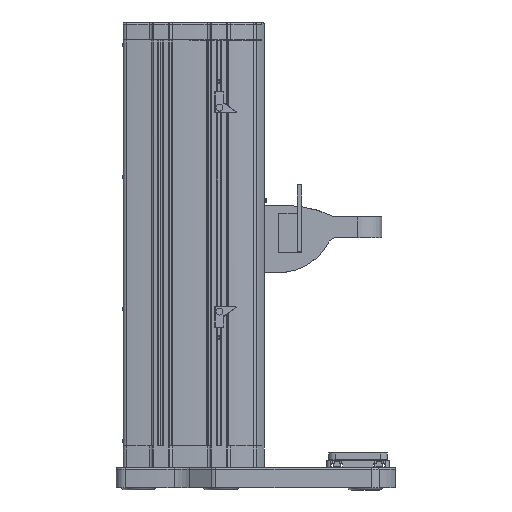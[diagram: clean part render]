
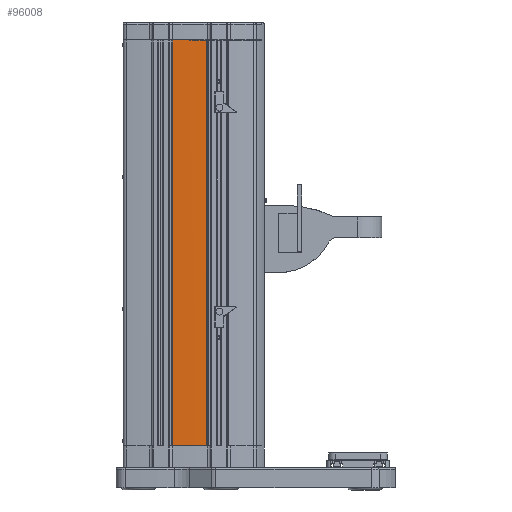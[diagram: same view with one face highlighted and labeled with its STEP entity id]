
A CAD part, left-side view. The second image highlights one B-rep face of the part: STEP entity #96008.
In plain terms, the highlighted cylindrical face has radius 887.984 mm (diameter 1775.97 mm), a partial arc.
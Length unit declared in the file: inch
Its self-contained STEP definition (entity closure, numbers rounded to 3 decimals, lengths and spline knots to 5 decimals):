
#11442=CARTESIAN_POINT('',(102.04442,-75.73704,-25.13782));
#11443=VERTEX_POINT('',#11442);
#11451=CARTESIAN_POINT('',(102.04447,-73.30986,-25.13782));
#11452=VERTEX_POINT('',#11451);
#11453=CARTESIAN_POINT('',(136.98337,-74.5241,-25.13782));
#11454=DIRECTION('',(0.,0.,-1.));
#11455=DIRECTION('',(-1.,0.,0.));
#11456=AXIS2_PLACEMENT_3D('',#11453,#11454,#11455);
#11457=CIRCLE('',#11456,34.96);
#11458=EDGE_CURVE('',#11443,#11452,#11457,.T.);
#75436=CARTESIAN_POINT('',(102.04442,-75.73704,3.85218));
#75437=VERTEX_POINT('',#75436);
#75445=CARTESIAN_POINT('',(102.04442,-75.73704,-25.13782));
#75446=DIRECTION('',(0.0,0.0,1.0));
#75447=VECTOR('',#75446,28.99);
#75448=LINE('',#75445,#75447);
#75449=EDGE_CURVE('',#11443,#75437,#75448,.T.);
#75756=CARTESIAN_POINT('',(102.02337,-74.52345,3.85218));
#75757=VERTEX_POINT('',#75756);
#75766=CARTESIAN_POINT('',(136.98337,-74.5241,3.85218));
#75767=DIRECTION('',(0.,0.,-1.));
#75768=DIRECTION('',(-1.,0.,0.));
#75769=AXIS2_PLACEMENT_3D('',#75766,#75767,#75768);
#75770=CIRCLE('',#75769,34.96);
#75771=EDGE_CURVE('',#75437,#75757,#75770,.T.);
#90026=CARTESIAN_POINT('',(102.02337,-74.52345,3.86218));
#90027=VERTEX_POINT('',#90026);
#90034=CARTESIAN_POINT('',(102.02337,-74.52345,3.86218));
#90035=DIRECTION('',(0.0,0.0,-1.0));
#90036=VECTOR('',#90035,0.01);
#90037=LINE('',#90034,#90036);
#90038=EDGE_CURVE('',#90027,#75757,#90037,.T.);
#95969=CARTESIAN_POINT('',(102.04447,-73.30986,3.86218));
#95970=VERTEX_POINT('',#95969);
#95971=CARTESIAN_POINT('',(102.04447,-73.30986,-25.13782));
#95972=DIRECTION('',(0.0,0.0,1.0));
#95973=VECTOR('',#95972,29.);
#95974=LINE('',#95971,#95973);
#95975=EDGE_CURVE('',#11452,#95970,#95974,.T.);
#95989=CARTESIAN_POINT('',(136.98337,-74.5241,-25.13782));
#95990=DIRECTION('',(0.,0.,1.0));
#95991=DIRECTION('',(-1.,0.,0.));
#95992=AXIS2_PLACEMENT_3D('',#95989,#95990,#95991);
#95993=CYLINDRICAL_SURFACE('',#95992,34.96);
#95994=ORIENTED_EDGE('',*,*,#90038,.F.);
#95995=CARTESIAN_POINT('',(136.98337,-74.5241,3.86218));
#95996=DIRECTION('',(0.,0.,1.));
#95997=DIRECTION('',(-1.,0.,0.));
#95998=AXIS2_PLACEMENT_3D('',#95995,#95996,#95997);
#95999=CIRCLE('',#95998,34.96);
#96000=EDGE_CURVE('',#95970,#90027,#95999,.T.);
#96001=ORIENTED_EDGE('',*,*,#96000,.F.);
#96002=ORIENTED_EDGE('',*,*,#95975,.F.);
#96003=ORIENTED_EDGE('',*,*,#11458,.F.);
#96004=ORIENTED_EDGE('',*,*,#75449,.T.);
#96005=ORIENTED_EDGE('',*,*,#75771,.T.);
#96006=EDGE_LOOP('',(#95994,#96001,#96002,#96003,#96004,#96005));
#96007=FACE_OUTER_BOUND('',#96006,.T.);
#96008=ADVANCED_FACE('',(#96007),#95993,.T.);
